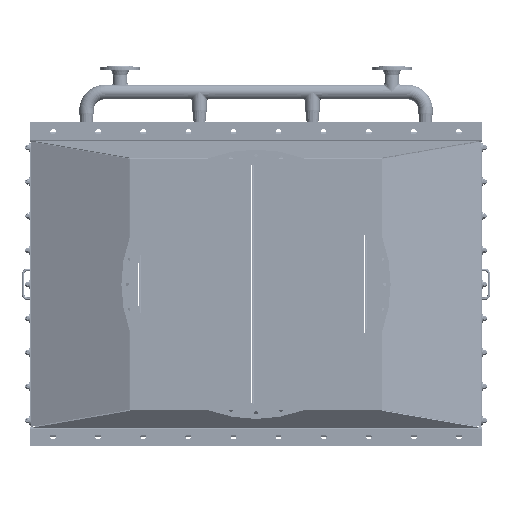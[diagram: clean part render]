
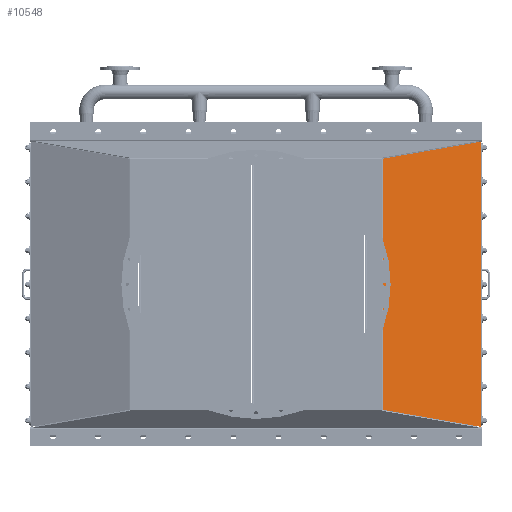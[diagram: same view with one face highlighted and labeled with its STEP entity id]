
A CAD part, front view. The second image highlights one B-rep face of the part: STEP entity #10548.
In plain terms, the highlighted planar face has unit normal (0.397, -0.918, 0) as drawn and (0.397, 0.918, 0) by its records, which use the part's own axes.
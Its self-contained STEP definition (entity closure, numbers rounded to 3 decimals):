
#129 = VERTEX_POINT ( 'NONE', #22646 ) ;
#258 = LINE ( 'NONE', #19779, #27654 ) ;
#330 = CARTESIAN_POINT ( 'NONE',  ( 934.48, -0.208, -592.719 ) ) ;
#881 = ORIENTED_EDGE ( 'NONE', *, *, #33203, .T. ) ;
#2374 = VERTEX_POINT ( 'NONE', #12520 ) ;
#2837 = ORIENTED_EDGE ( 'NONE', *, *, #33594, .T. ) ;
#3444 = VERTEX_POINT ( 'NONE', #27322 ) ;
#4875 = VECTOR ( 'NONE', #8289, 1000. ) ;
#4893 = FACE_OUTER_BOUND ( 'NONE', #9702, .T. ) ;
#5011 = VECTOR ( 'NONE', #22640, 1000. ) ;
#5100 = PLANE ( 'NONE',  #12754 ) ;
#5464 = ORIENTED_EDGE ( 'NONE', *, *, #20476, .T. ) ;
#5624 = LINE ( 'NONE', #8229, #16020 ) ;
#7594 = CARTESIAN_POINT ( 'NONE',  ( 526.243, 176.462, 520.942 ) ) ;
#8229 = CARTESIAN_POINT ( 'NONE',  ( 526.243, 176.462, -596. ) ) ;
#8289 = DIRECTION ( 'NONE',  ( 0., 0., -1. ) ) ;
#8795 = DIRECTION ( 'NONE',  ( -0.918, 0.397, 0. ) ) ;
#8878 = EDGE_CURVE ( 'NONE', #34170, #3444, #26084, .T. ) ;
#9569 = LINE ( 'NONE', #17456, #5011 ) ;
#9702 = EDGE_LOOP ( 'NONE', ( #5464, #20359, #33117, #30759, #2837, #31328, #19580, #881 ) ) ;
#10216 = VERTEX_POINT ( 'NONE', #28278 ) ;
#10548 = ADVANCED_FACE ( 'NONE', ( #4893 ), #5100, .F. ) ;
#11077 = CARTESIAN_POINT ( 'NONE',  ( 934., 0., 596. ) ) ;
#11816 = VECTOR ( 'NONE', #29294, 1000. ) ;
#12520 = CARTESIAN_POINT ( 'NONE',  ( 526.243, 176.462, -521.851 ) ) ;
#12754 = AXIS2_PLACEMENT_3D ( 'NONE', #23649, #26301, #28942 ) ;
#12977 = DIRECTION ( 'NONE',  ( -0.906, 0.392, 0.157 ) ) ;
#13516 = CARTESIAN_POINT ( 'NONE',  ( 526.14, 176.506, -596. ) ) ;
#14488 = VECTOR ( 'NONE', #26856, 1000. ) ;
#15304 = VECTOR ( 'NONE', #20354, 1000. ) ;
#16020 = VECTOR ( 'NONE', #31876, 1000. ) ;
#16274 = CARTESIAN_POINT ( 'NONE',  ( 526.243, 176.462, -520.942 ) ) ;
#17456 = CARTESIAN_POINT ( 'NONE',  ( 526.243, 176.462, -596. ) ) ;
#17486 = CARTESIAN_POINT ( 'NONE',  ( 526.14, 176.506, -520.942 ) ) ;
#17627 = EDGE_CURVE ( 'NONE', #129, #34170, #9569, .T. ) ;
#18450 = VERTEX_POINT ( 'NONE', #30927 ) ;
#19580 = ORIENTED_EDGE ( 'NONE', *, *, #20319, .T. ) ;
#19779 = CARTESIAN_POINT ( 'NONE',  ( 934., 0., -520.942 ) ) ;
#20319 = EDGE_CURVE ( 'NONE', #10216, #2374, #33854, .T. ) ;
#20354 = DIRECTION ( 'NONE',  ( -0.918, 0.397, 0. ) ) ;
#20359 = ORIENTED_EDGE ( 'NONE', *, *, #30607, .T. ) ;
#20476 = EDGE_CURVE ( 'NONE', #23125, #28858, #258, .T. ) ;
#21461 = LINE ( 'NONE', #11077, #4875 ) ;
#22640 = DIRECTION ( 'NONE',  ( 0., 0., -1. ) ) ;
#22646 = CARTESIAN_POINT ( 'NONE',  ( 526.243, 176.462, 521.851 ) ) ;
#23125 = VERTEX_POINT ( 'NONE', #16274 ) ;
#23649 = CARTESIAN_POINT ( 'NONE',  ( 934., 0., -596. ) ) ;
#24129 = CARTESIAN_POINT ( 'NONE',  ( 764.51, 73.349, 563.213 ) ) ;
#24439 = LINE ( 'NONE', #13516, #14488 ) ;
#25276 = EDGE_CURVE ( 'NONE', #18450, #10216, #21461, .T. ) ;
#26084 = LINE ( 'NONE', #28583, #15304 ) ;
#26301 = DIRECTION ( 'NONE',  ( -0.397, -0.918, 0. ) ) ;
#26825 = VECTOR ( 'NONE', #12977, 1000. ) ;
#26856 = DIRECTION ( 'NONE',  ( 0., 0., 1. ) ) ;
#27322 = CARTESIAN_POINT ( 'NONE',  ( 526.14, 176.506, 520.942 ) ) ;
#27654 = VECTOR ( 'NONE', #8795, 1000. ) ;
#28278 = CARTESIAN_POINT ( 'NONE',  ( 934., 0., -592.636 ) ) ;
#28583 = CARTESIAN_POINT ( 'NONE',  ( 934., 0., 520.942 ) ) ;
#28858 = VERTEX_POINT ( 'NONE', #17486 ) ;
#28942 = DIRECTION ( 'NONE',  ( 0.918, -0.397, 0. ) ) ;
#29294 = DIRECTION ( 'NONE',  ( 0.906, -0.392, 0.157 ) ) ;
#30607 = EDGE_CURVE ( 'NONE', #28858, #3444, #24439, .T. ) ;
#30759 = ORIENTED_EDGE ( 'NONE', *, *, #17627, .F. ) ;
#30882 = LINE ( 'NONE', #24129, #11816 ) ;
#30927 = CARTESIAN_POINT ( 'NONE',  ( 934., 0., 592.636 ) ) ;
#31328 = ORIENTED_EDGE ( 'NONE', *, *, #25276, .T. ) ;
#31876 = DIRECTION ( 'NONE',  ( 0., 0., 1. ) ) ;
#33117 = ORIENTED_EDGE ( 'NONE', *, *, #8878, .F. ) ;
#33203 = EDGE_CURVE ( 'NONE', #2374, #23125, #5624, .T. ) ;
#33594 = EDGE_CURVE ( 'NONE', #129, #18450, #30882, .T. ) ;
#33854 = LINE ( 'NONE', #330, #26825 ) ;
#34170 = VERTEX_POINT ( 'NONE', #7594 ) ;
